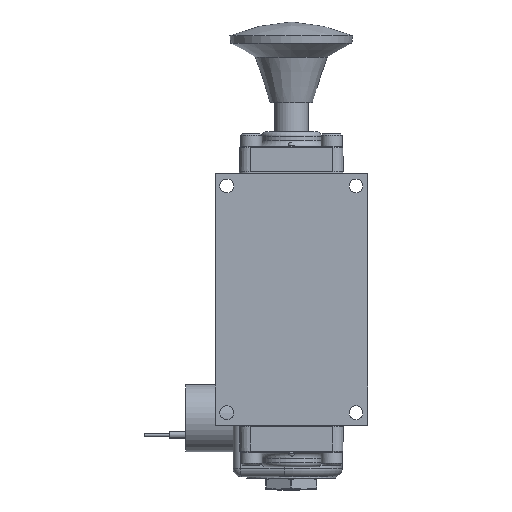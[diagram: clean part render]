
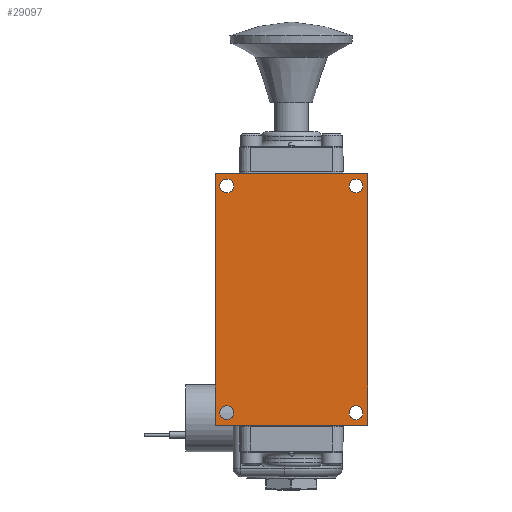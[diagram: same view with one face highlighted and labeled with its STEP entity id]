
A CAD part, front view. The second image highlights one B-rep face of the part: STEP entity #29097.
In plain terms, the highlighted planar face has unit normal (0, -1, 0).
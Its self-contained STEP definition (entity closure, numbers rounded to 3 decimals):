
#605=FACE_BOUND('',#3888,.T.);
#606=FACE_BOUND('',#3889,.T.);
#607=FACE_BOUND('',#3890,.T.);
#608=FACE_BOUND('',#3891,.T.);
#1027=PLANE('',#30992);
#2123=FACE_OUTER_BOUND('',#3887,.T.);
#3887=EDGE_LOOP('',(#20770,#20771,#20772,#20773));
#3888=EDGE_LOOP('',(#20774));
#3889=EDGE_LOOP('',(#20775));
#3890=EDGE_LOOP('',(#20776));
#3891=EDGE_LOOP('',(#20777));
#6128=LINE('',#43030,#8230);
#6136=LINE('',#43055,#8238);
#6358=LINE('',#44108,#8460);
#6600=LINE('',#45536,#8702);
#8230=VECTOR('',#33900,1.);
#8238=VECTOR('',#33918,1.);
#8460=VECTOR('',#34360,1.);
#8702=VECTOR('',#34756,1.);
#10358=CIRCLE('',#30950,0.258);
#10359=CIRCLE('',#30952,0.258);
#10360=CIRCLE('',#30954,0.258);
#10361=CIRCLE('',#30956,0.258);
#11779=VERTEX_POINT('',#43027);
#11780=VERTEX_POINT('',#43029);
#11791=VERTEX_POINT('',#43052);
#11792=VERTEX_POINT('',#43054);
#12360=VERTEX_POINT('',#46430);
#12361=VERTEX_POINT('',#46434);
#12362=VERTEX_POINT('',#46438);
#12363=VERTEX_POINT('',#46442);
#14594=EDGE_CURVE('',#11779,#11780,#6128,.T.);
#14606=EDGE_CURVE('',#11791,#11792,#6136,.T.);
#14912=EDGE_CURVE('',#11780,#11791,#6358,.T.);
#15250=EDGE_CURVE('',#11792,#11779,#6600,.T.);
#15448=EDGE_CURVE('',#12360,#12360,#10358,.T.);
#15450=EDGE_CURVE('',#12361,#12361,#10359,.T.);
#15452=EDGE_CURVE('',#12362,#12362,#10360,.T.);
#15454=EDGE_CURVE('',#12363,#12363,#10361,.T.);
#20770=ORIENTED_EDGE('',*,*,#14912,.F.);
#20771=ORIENTED_EDGE('',*,*,#14594,.F.);
#20772=ORIENTED_EDGE('',*,*,#15250,.F.);
#20773=ORIENTED_EDGE('',*,*,#14606,.F.);
#20774=ORIENTED_EDGE('',*,*,#15448,.T.);
#20775=ORIENTED_EDGE('',*,*,#15450,.T.);
#20776=ORIENTED_EDGE('',*,*,#15452,.T.);
#20777=ORIENTED_EDGE('',*,*,#15454,.T.);
#29097=ADVANCED_FACE('',(#2123,#605,#606,#607,#608),#1027,.F.);
#30950=AXIS2_PLACEMENT_3D('',#46432,#35169,#35170);
#30952=AXIS2_PLACEMENT_3D('',#46436,#35174,#35175);
#30954=AXIS2_PLACEMENT_3D('',#46440,#35179,#35180);
#30956=AXIS2_PLACEMENT_3D('',#46444,#35184,#35185);
#30992=AXIS2_PLACEMENT_3D('',#46515,#35271,#35272);
#33900=DIRECTION('',(-1.,0.,0.));
#33918=DIRECTION('',(1.,0.,0.));
#34360=DIRECTION('',(0.,0.,1.));
#34756=DIRECTION('',(0.,0.,-1.));
#35169=DIRECTION('center_axis',(0.,1.,0.));
#35170=DIRECTION('ref_axis',(-1.,0.,0.));
#35174=DIRECTION('center_axis',(0.,1.,0.));
#35175=DIRECTION('ref_axis',(-1.,0.,0.));
#35179=DIRECTION('center_axis',(0.,1.,0.));
#35180=DIRECTION('ref_axis',(-1.,0.,0.));
#35184=DIRECTION('center_axis',(0.,1.,0.));
#35185=DIRECTION('ref_axis',(-1.,0.,0.));
#35271=DIRECTION('center_axis',(0.,1.,0.));
#35272=DIRECTION('ref_axis',(0.,0.,1.));
#43027=CARTESIAN_POINT('',(2.858,-1.636,-4.71));
#43029=CARTESIAN_POINT('',(-2.858,-1.636,-4.71));
#43030=CARTESIAN_POINT('',(2.858,-1.636,-4.71));
#43052=CARTESIAN_POINT('',(-2.858,-1.636,4.71));
#43054=CARTESIAN_POINT('',(2.858,-1.636,4.71));
#43055=CARTESIAN_POINT('',(-2.858,-1.636,4.71));
#44108=CARTESIAN_POINT('',(-2.858,-1.636,-4.71));
#45536=CARTESIAN_POINT('',(2.858,-1.636,4.71));
#46430=CARTESIAN_POINT('',(-2.163,-1.636,-4.247));
#46432=CARTESIAN_POINT('Origin',(-2.421,-1.636,-4.247));
#46434=CARTESIAN_POINT('',(-2.163,-1.636,4.247));
#46436=CARTESIAN_POINT('Origin',(-2.421,-1.636,4.247));
#46438=CARTESIAN_POINT('',(2.678,-1.636,-4.247));
#46440=CARTESIAN_POINT('Origin',(2.421,-1.636,-4.247));
#46442=CARTESIAN_POINT('',(2.678,-1.636,4.247));
#46444=CARTESIAN_POINT('Origin',(2.421,-1.636,4.247));
#46515=CARTESIAN_POINT('Origin',(0.,-1.636,0.));
